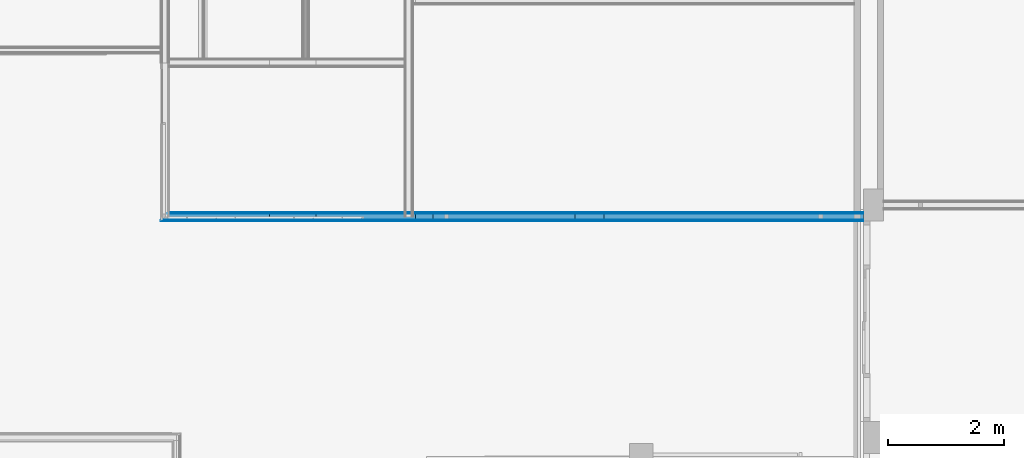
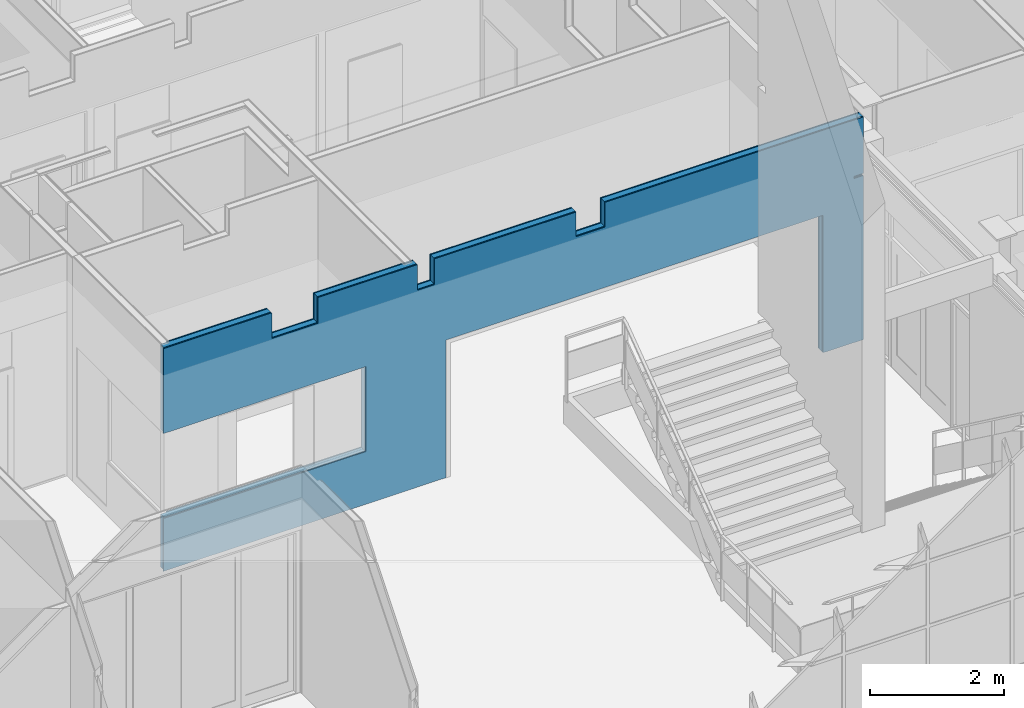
# One storey, part 33 of 109: 5 building element parts, 2 openings, 1 element without a shape of its own.
"""IFC2X3 building model written with IfcOpenShell, lengths in millimetres."""

from ifc_helpers import new_model, entity, si_unit, converted_unit, derived_unit, money_unit, direction, frame, origin_with_axes, place, context, subcontext, project, spatial, faceted_brep, material, type_object, element, aggregate, save


model = new_model("IFC2X3")

# Units and contexts
model_context = context("Model", 3, precision=0.01, world=origin_with_axes(), true_north=direction((0.0, 1.0)))
body_context = subcontext(model_context, "Body", "Model", "MODEL_VIEW")
ifc_project = project(units=[si_unit("LENGTHUNIT", "METRE", prefix="MILLI"), si_unit("AREAUNIT", "SQUARE_METRE"), si_unit("VOLUMEUNIT", "CUBIC_METRE"), converted_unit("PLANEANGLEUNIT", "DEGREE", entity("IfcPlaneAngleMeasure", 0.0174532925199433), si_unit("PLANEANGLEUNIT", "RADIAN"), dimensions=[0, 0, 0, 0, 0, 0, 0]), money_unit("EUR"), converted_unit("TIMEUNIT", "Year", entity("IfcTimeMeasure", 31557600.0), si_unit("TIMEUNIT", "SECOND"), dimensions=[0, 0, 1, 0, 0, 0, 0]), si_unit("MASSUNIT", "GRAM", prefix="KILO"), si_unit("THERMODYNAMICTEMPERATUREUNIT", "DEGREE_CELSIUS"), si_unit("LUMINOUSINTENSITYUNIT", "LUMEN"), si_unit("ENERGYUNIT", "JOULE", prefix="MEGA"), derived_unit("THERMALCONDUCTANCEUNIT", [(si_unit("POWERUNIT", "WATT"), 1), (si_unit("LENGTHUNIT", "METRE"), -1), (si_unit("THERMODYNAMICTEMPERATUREUNIT", "KELVIN"), -1)]), derived_unit("SPECIFICHEATCAPACITYUNIT", [(si_unit("ENERGYUNIT", "JOULE"), 1), (si_unit("MASSUNIT", "GRAM", prefix="KILO"), -1), (si_unit("THERMODYNAMICTEMPERATUREUNIT", "KELVIN"), -1)]), derived_unit("MASSDENSITYUNIT", [(si_unit("MASSUNIT", "GRAM", prefix="KILO"), 1), (si_unit("VOLUMEUNIT", "CUBIC_METRE"), -1)])], contexts=[model_context])

# Site, building, storey
site_placement = place(None, origin_with_axes())
site = spatial("IfcSite", under=ifc_project, at=site_placement, Name="<site naam>", CompositionType="ELEMENT")
building_placement = place(site_placement, origin_with_axes())
building = spatial("IfcBuilding", under=site, at=building_placement, Name="<Naam gebouw>", CompositionType="ELEMENT")
storey_placement = place(building_placement, origin_with_axes())
storey = spatial("IfcBuildingStorey", under=building, at=storey_placement, Name="00 Begane grond", CompositionType="ELEMENT", Elevation=0.0)

# Wall, openings, building element parts
wall_type = type_object("IfcWallType", Name="MS-01 GF 150 ECO DGS/2.100.2.A 150", PredefinedType="NOTDEFINED")
wall_placement = place(storey_placement, frame((-199.9999999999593, 11800.00000000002, 0.0), z_axis=(0.0, 0.0, 1.0), x_axis=(1.0, 0.0, 0.0)))
wall = element("IfcWall", 1, at=wall_placement, inside=storey, type_object=wall_type, Name="22_Binnenwand_MS-01")
opening_1_placement = place(wall_placement, frame((1717.194233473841, 0.0, 965.0), z_axis=(0.0, 0.0, 1.0), x_axis=(1.0, 0.0, 0.0)))
element("IfcOpeningElement", 2, at=opening_1_placement, cuts=wall, Name="22__305", context=body_context, shape_type="Brep", body=[
    faceted_brep([(1708.194233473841, -54.99999999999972, 0.0), (1708.194233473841, -54.99999999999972, 1552.0), (1708.194233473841, -75.99999999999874, 1552.0), (1708.194233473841, -75.99999999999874, 0.0), (1708.194233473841, 75.99999999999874, 0.0), (1708.194233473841, 75.99999999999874, 1552.0), (-1772.194233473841, -54.99999999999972, 1552.0), (-1792.194233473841, -74.99999999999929, 1552.0), (-1792.194233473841, -75.99999999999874, 1552.0), (-1792.194233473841, -75.99999999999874, 0.0), (-1772.194233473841, -54.99999999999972, 0.0), (-1792.194233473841, -74.99999999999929, 0.0), (-1641.194233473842, 75.99999999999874, 0.0), (-1641.194233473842, 75.99999999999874, 1552.0)], [[[0, 1, 2, 3]], [[1, 0, 4, 5]], [[1, 6, 7, 8, 2]], [[8, 9, 3, 2]], [[10, 0, 3, 9, 11]], [[0, 10, 12, 4]], [[5, 4, 12, 13]], [[6, 1, 5, 13]], [[7, 6, 13, 12, 10, 11]], [[11, 9, 8, 7]]]),
])
opening_2_placement = place(wall_placement, frame((8070.000000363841, 0.0, 0.0), z_axis=(0.0, 0.0, 1.0), x_axis=(1.0, 0.0, 0.0)))
element("IfcOpeningElement", 3, at=opening_2_placement, cuts=wall, Name="22_BI-H-01_305", context=body_context, shape_type="Brep", body=[
    faceted_brep([(3257.0, 76.00000000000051, 2517.0), (3257.0, 75.99999999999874, 0.0), (-3257.0, 75.99999999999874, 0.0), (-3257.0, 76.00000000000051, 2517.0), (3257.0, -76.00000000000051, 2517.0), (3257.0, -76.00000000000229, 0.0), (-3257.0, -76.00000000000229, 0.0), (-3257.0, -76.00000000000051, 2517.0)], [[[0, 1, 2, 3]], [[4, 5, 1, 0]], [[5, 6, 2, 1]], [[6, 7, 3, 2]], [[7, 4, 0, 3]], [[6, 5, 4, 7]]]),
])
ifc_material_1 = material(Name="gipsplaat")
building_element_part_1_placement = place(wall_placement, origin_with_axes())
building_element_part_1 = element("IfcBuildingElementPart", 4, at=building_element_part_1_placement, material=ifc_material_1, Name="gipsplaat", context=body_context, shape_type="Brep", body=[
    faceted_brep([(7062.499999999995, 75.00000000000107, 4070.0), (7062.499999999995, 74.99999999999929, 3620.0), (7562.499999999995, 74.99999999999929, 3620.0), (7562.499999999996, 75.00000000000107, 4070.0), (12026.79100128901, 75.00000000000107, 4070.0), (12026.79100128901, 75.00000000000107, 3040.0), (11864.99999999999, 75.00000000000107, 3040.0), (11864.99999999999, 75.00000000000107, 3000.0), (12026.79100128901, 75.00000000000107, 3000.0), (12026.79100128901, 75.00000000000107, 0.0), (11864.99987615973, 75.00000000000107, 0.0), (11864.99987615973, 75.00000000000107, 3.000000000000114), (4275.000231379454, 75.00000000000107, 3.000000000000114), (4275.000231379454, 74.99999999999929, 0.0), (62.49999999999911, 74.99999999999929, 0.0), (62.49999999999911, 74.99999999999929, 964.9999999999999), (75.00000162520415, 75.00000162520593, 964.9999999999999), (75.00000162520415, 75.00000162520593, 2517.0), (62.49999999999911, 75.00000000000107, 2517.0), (62.49999999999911, 75.00000000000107, 4070.0), (1799.999999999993, 75.00000000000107, 4070.0), (1799.999999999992, 75.00000000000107, 3600.0), (2599.999999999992, 75.00000000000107, 3600.0), (2599.999999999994, 75.00000000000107, 4070.0), (4314.999999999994, 75.00000000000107, 4070.0), (4314.999999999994, 75.00000000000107, 3600.0), (4614.999999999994, 75.00000000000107, 3600.0), (4614.999999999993, 75.00000000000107, 4070.0), (7062.499999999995, 62.5, 3620.0), (7062.499999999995, 62.50000000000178, 4070.0), (7562.499999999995, 62.5, 3620.0), (7562.499999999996, 62.5, 4070.0), (12026.79100128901, 62.50000000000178, 4070.0), (12026.79100128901, 62.50000000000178, 3040.0), (11864.99999999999, 62.5, 3040.0), (11864.99999999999, 62.5, 3000.0), (12026.79100128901, 62.50000000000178, 3000.0), (12026.79100128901, 62.5, 0.0), (11864.99987615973, 62.5, 0.0), (11864.99987615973, 62.5, 3.000000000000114), (4275.000231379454, 62.5, 3.000000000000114), (4275.000231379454, 62.5, 0.0), (62.49999999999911, 62.5, 0.0), (62.49999999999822, 62.5, 964.9999999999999), (62.49999999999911, 62.5, 2517.0), (62.49999999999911, 62.5, 4070.0), (1799.999999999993, 62.5, 4070.0), (1799.999999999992, 62.49999999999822, 3600.0), (2599.999999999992, 62.49999999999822, 3600.0), (2599.999999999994, 62.5, 4070.0), (4314.999999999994, 62.5, 4070.0), (4314.999999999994, 62.5, 3600.0), (4614.999999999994, 62.5, 3600.0), (4614.999999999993, 62.5, 4070.0)], [[[0, 1, 2, 3, 4, 5, 6, 7, 8, 9, 10, 11, 12, 13, 14, 15, 16, 17, 18, 19, 20, 21, 22, 23, 24, 25, 26, 27]], [[28, 1, 0, 29]], [[30, 2, 1, 28]], [[30, 31, 3, 2]], [[4, 3, 31, 32]], [[33, 5, 4, 32]], [[6, 5, 33, 34]], [[7, 6, 34, 35]], [[36, 8, 7, 35]], [[8, 36, 37, 9]], [[38, 10, 9, 37]], [[11, 10, 38, 39]], [[12, 11, 39, 40]], [[13, 12, 40, 41]], [[13, 41, 42, 14]], [[14, 42, 43, 15]], [[15, 43, 16]], [[17, 16, 43, 44]], [[17, 44, 18]], [[45, 19, 18, 44]], [[20, 19, 45, 46]], [[20, 46, 47, 21]], [[21, 47, 48, 22]], [[23, 22, 48, 49]], [[24, 23, 49, 50]], [[24, 50, 51, 25]], [[25, 51, 52, 26]], [[27, 26, 52, 53]], [[53, 29, 0, 27]], [[30, 28, 29, 53, 52, 51, 50, 49, 48, 47, 46, 45, 44, 43, 42, 41, 40, 39, 38, 37, 36, 35, 34, 33, 32, 31]]]),
])
building_element_part_2_placement = place(wall_placement, origin_with_axes())
building_element_part_2 = element("IfcBuildingElementPart", 5, at=building_element_part_2_placement, material=ifc_material_1, Name="gipsplaat", context=body_context, shape_type="Brep", body=[
    faceted_brep([(7062.499999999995, -49.99999999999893, 4070.0), (7062.499999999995, -49.99999999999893, 3620.0), (7562.499999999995, -49.99999999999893, 3620.0), (7562.499999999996, -49.99999999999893, 4070.0), (12026.79100128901, -49.99999999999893, 4070.0), (12026.79100128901, -49.99999999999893, 3040.0), (11864.99999999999, -49.99999999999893, 3040.0), (11864.99999999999, -49.99999999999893, 3000.0), (12026.79100128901, -49.99999999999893, 3000.0), (12026.79100128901, -49.99999999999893, 0.0), (11864.99987615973, -49.99999999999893, 0.0), (11864.99987615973, -49.99999999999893, 3.000000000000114), (4275.000231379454, -49.99999999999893, 3.000000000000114), (4275.000231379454, -50.00000000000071, 0.0), (-62.50000000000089, -50.00000000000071, 0.0), (-62.50000000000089, -50.00000000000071, 964.9999999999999), (-54.99999999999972, -49.99999999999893, 964.9999999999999), (-50.0000000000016, -49.99999999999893, 964.9999999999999), (-50.00000000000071, -49.99999999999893, 2517.0), (-54.99999999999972, -49.99999999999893, 2517.0), (-62.50000000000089, -49.99999999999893, 2517.0), (-62.50000000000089, -49.99999999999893, 4070.0), (1799.999999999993, -49.99999999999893, 4070.0), (1799.999999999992, -49.99999999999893, 3600.0), (2599.999999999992, -49.99999999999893, 3600.0), (2599.999999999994, -49.99999999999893, 4070.0), (4314.999999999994, -49.99999999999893, 4070.0), (4314.999999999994, -49.99999999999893, 3600.0), (4614.999999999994, -49.99999999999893, 3600.0), (4614.999999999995, -49.99999999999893, 4070.0), (7062.499999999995, -62.5, 3620.0), (7062.499999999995, -62.49999999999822, 4070.0), (7562.499999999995, -62.5, 3620.0), (7562.499999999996, -62.5, 4070.0), (12026.79100128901, -62.49999999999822, 4070.0), (12026.79100128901, -62.49999999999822, 3040.0), (11864.99999999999, -62.5, 3040.0), (11864.99999999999, -62.5, 3000.0), (12026.79100128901, -62.49999999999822, 3000.0), (12026.79100128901, -62.5, 0.0), (11864.99987615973, -62.5, 0.0), (11864.99987615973, -62.5, 3.000000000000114), (4275.000231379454, -62.5, 3.000000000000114), (4275.000231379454, -62.5, 0.0), (-62.50000000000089, -62.5, 0.0), (-62.50000000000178, -62.5, 964.9999999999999), (-54.99999999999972, -54.99999999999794, 964.9999999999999), (-62.50000000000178, -62.5, 2517.0), (-54.99999999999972, -54.99999999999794, 2517.0), (-62.50000000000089, -62.5, 4070.0), (1799.999999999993, -62.5, 4070.0), (1799.999999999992, -62.5, 3600.0), (2599.999999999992, -62.5, 3600.0), (2599.999999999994, -62.5, 4070.0), (4314.999999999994, -62.5, 4070.0), (4314.999999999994, -62.5, 3600.0), (4614.999999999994, -62.5, 3600.0), (4614.999999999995, -62.5, 4070.0)], [[[0, 1, 2, 3, 4, 5, 6, 7, 8, 9, 10, 11, 12, 13, 14, 15, 16, 17, 18, 19, 20, 21, 22, 23, 24, 25, 26, 27, 28, 29]], [[30, 1, 0, 31]], [[32, 2, 1, 30]], [[32, 33, 3, 2]], [[4, 3, 33, 34]], [[35, 5, 4, 34]], [[6, 5, 35, 36]], [[7, 6, 36, 37]], [[38, 8, 7, 37]], [[8, 38, 39, 9]], [[40, 10, 9, 39]], [[11, 10, 40, 41]], [[12, 11, 41, 42]], [[13, 12, 42, 43]], [[13, 43, 44, 14]], [[14, 44, 45, 15]], [[45, 46, 16, 15]], [[16, 46, 17]], [[47, 48, 18, 17, 46, 45]], [[18, 48, 19]], [[48, 47, 20, 19]], [[49, 21, 20, 47]], [[22, 21, 49, 50]], [[22, 50, 51, 23]], [[23, 51, 52, 24]], [[25, 24, 52, 53]], [[26, 25, 53, 54]], [[26, 54, 55, 27]], [[27, 55, 56, 28]], [[29, 28, 56, 57]], [[57, 31, 0, 29]], [[32, 30, 31, 57, 56, 55, 54, 53, 52, 51, 50, 49, 47, 45, 44, 43, 42, 41, 40, 39, 38, 37, 36, 35, 34, 33]]]),
])
ifc_material_2 = material(Name="isolatie_steenwol LSW")
building_element_part_3_placement = place(wall_placement, origin_with_axes())
building_element_part_3 = element("IfcBuildingElementPart", 6, at=building_element_part_3_placement, material=ifc_material_2, Name="isolatie_steenwol LSW", context=body_context, shape_type="Brep", body=[
    faceted_brep([(7062.499999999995, 50.00000000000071, 4070.0), (7062.499999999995, 50.00000000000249, 3620.0), (7562.499999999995, 50.00000000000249, 3620.0), (7562.499999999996, 50.00000000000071, 4070.0), (12026.79100128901, 50.00000000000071, 4070.0), (12026.79100128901, 50.00000000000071, 3040.0), (11864.99999999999, 50.00000000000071, 3040.0), (11864.99999999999, 50.00000000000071, 3000.0), (12026.79100128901, 50.00000000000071, 3000.0), (12026.79100128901, 50.00000000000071, 0.0), (11864.99987615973, 50.00000000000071, 0.0), (11864.99987615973, 50.00000000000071, 3.000000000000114), (4275.000231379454, 49.99999999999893, 3.000000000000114), (4275.000231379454, 50.00000000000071, 0.0), (-50.0000000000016, 50.00000000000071, 0.0), (-50.0000000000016, 50.00000000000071, 964.9999999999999), (49.99999999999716, 49.99999999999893, 964.9999999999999), (49.99999999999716, 49.99999999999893, 2517.0), (-50.0000000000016, 50.00000000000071, 2517.0), (-50.0000000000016, 50.00000000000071, 4070.0), (1799.999999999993, 50.00000000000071, 4070.0), (1799.999999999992, 49.99999999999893, 3600.0), (2599.999999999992, 49.99999999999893, 3600.0), (2599.999999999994, 50.00000000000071, 4070.0), (4314.999999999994, 50.00000000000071, 4070.0), (4314.999999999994, 49.99999999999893, 3600.0), (4614.999999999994, 49.99999999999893, 3600.0), (4614.999999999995, 50.00000000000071, 4070.0), (7062.499999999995, -49.99999999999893, 3620.0), (7062.499999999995, -49.99999999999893, 4070.0), (7562.499999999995, -49.99999999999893, 3620.0), (7562.499999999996, -49.99999999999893, 4070.0), (12026.79100128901, -49.99999999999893, 4070.0), (12026.79100128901, -49.99999999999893, 3040.0), (11864.99999999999, -49.99999999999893, 3040.0), (11864.99999999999, -49.99999999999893, 3000.0), (12026.79100128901, -49.99999999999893, 3000.0), (12026.79100128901, -49.99999999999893, 0.0), (11864.99987615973, -49.99999999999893, 0.0), (11864.99987615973, -49.99999999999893, 3.000000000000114), (4275.000231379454, -49.99999999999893, 3.000000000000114), (4275.000231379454, -50.00000000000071, 0.0), (-50.0000000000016, -50.00000000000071, 0.0), (-50.0000000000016, -50.00000000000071, 964.9999999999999), (-50.0000000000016, -49.99999999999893, 2517.0), (-50.0000000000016, -49.99999999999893, 4070.0), (1799.999999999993, -49.99999999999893, 4070.0), (1799.999999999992, -49.99999999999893, 3600.0), (2599.999999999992, -49.99999999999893, 3600.0), (2599.999999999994, -49.99999999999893, 4070.0), (4314.999999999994, -49.99999999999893, 4070.0), (4314.999999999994, -49.99999999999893, 3600.0), (4614.999999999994, -49.99999999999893, 3600.0), (4614.999999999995, -49.99999999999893, 4070.0)], [[[0, 1, 2, 3, 4, 5, 6, 7, 8, 9, 10, 11, 12, 13, 14, 15, 16, 17, 18, 19, 20, 21, 22, 23, 24, 25, 26, 27]], [[28, 1, 0, 29]], [[30, 2, 1, 28]], [[30, 31, 3, 2]], [[4, 3, 31, 32]], [[33, 5, 4, 32]], [[6, 5, 33, 34]], [[7, 6, 34, 35]], [[36, 8, 7, 35]], [[8, 36, 37, 9]], [[38, 10, 9, 37]], [[11, 10, 38, 39]], [[12, 11, 39, 40]], [[13, 12, 40, 41]], [[13, 41, 42, 14]], [[14, 42, 43, 15]], [[15, 43, 16]], [[43, 44, 17, 16]], [[17, 44, 18]], [[45, 19, 18, 44]], [[20, 19, 45, 46]], [[20, 46, 47, 21]], [[21, 47, 48, 22]], [[23, 22, 48, 49]], [[24, 23, 49, 50]], [[24, 50, 51, 25]], [[25, 51, 52, 26]], [[27, 26, 52, 53]], [[53, 29, 0, 27]], [[30, 28, 29, 53, 52, 51, 50, 49, 48, 47, 46, 45, 44, 43, 42, 41, 40, 39, 38, 37, 36, 35, 34, 33, 32, 31]]]),
])
building_element_part_4_placement = place(wall_placement, origin_with_axes())
building_element_part_4 = element("IfcBuildingElementPart", 7, at=building_element_part_4_placement, material=ifc_material_1, Name="gipsplaat", context=body_context, shape_type="Brep", body=[
    faceted_brep([(7062.499999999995, -62.5, 4070.0), (7062.499999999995, -62.5, 3620.0), (7562.499999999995, -62.5, 3620.0), (7562.499999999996, -62.5, 4070.0), (12026.79100128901, -62.49999999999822, 4070.0), (12026.79100128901, -62.49999999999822, 3040.0), (11864.99999999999, -62.49999999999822, 3040.0), (11864.99999999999, -62.49999999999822, 3000.0), (12026.79100128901, -62.49999999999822, 3000.0), (12026.79100128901, -62.5, 0.0), (11864.99987615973, -62.5, 0.0), (11864.99987615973, -62.49999999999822, 3.000000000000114), (4275.000231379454, -62.49999999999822, 3.000000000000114), (4275.000231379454, -62.5, 0.0), (-75.00000000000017, -62.5, 0.0), (-75.00000000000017, -62.5, 964.9999999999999), (-62.50000000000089, -62.49999999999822, 964.9999999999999), (-62.50000000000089, -62.49999999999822, 2517.0), (-75.00000000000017, -62.5, 2517.0), (-75.00000000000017, -62.5, 4070.0), (1799.999999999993, -62.5, 4070.0), (1799.999999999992, -62.49999999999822, 3600.0), (2599.999999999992, -62.49999999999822, 3600.0), (2599.999999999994, -62.5, 4070.0), (4314.999999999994, -62.5, 4070.0), (4314.999999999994, -62.49999999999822, 3600.0), (4614.999999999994, -62.49999999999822, 3600.0), (4614.999999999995, -62.5, 4070.0), (7062.499999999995, -74.99999999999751, 3620.0), (7062.499999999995, -74.99999999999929, 4070.0), (7562.499999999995, -74.99999999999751, 3620.0), (7562.499999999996, -74.99999999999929, 4070.0), (12026.79100128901, -74.99999999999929, 4070.0), (12026.79100128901, -74.99999999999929, 3040.0), (11864.99999999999, -74.99999999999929, 3040.0), (11864.99999999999, -74.99999999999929, 3000.0), (12026.79100128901, -74.99999999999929, 3000.0), (12026.79100128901, -74.99999999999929, 0.0), (11864.99987615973, -74.99994814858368, 0.0), (11864.99987615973, -74.99994814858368, 3.000000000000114), (4275.000231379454, -74.99994814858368, 3.000000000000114), (4275.000231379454, -74.99994814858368, 0.0), (-75.00000000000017, -74.99999999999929, 0.0), (-75.00000000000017, -74.99999999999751, 964.9999999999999), (-75.00000000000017, -74.99999999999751, 2517.0), (-75.00000000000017, -74.99999999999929, 4070.0), (1799.999999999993, -74.99999999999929, 4070.0), (1799.999999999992, -74.99994814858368, 3600.0), (2599.999999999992, -74.99994814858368, 3600.0), (2599.999999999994, -74.99999999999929, 4070.0), (4314.999999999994, -74.99999999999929, 4070.0), (4314.999999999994, -74.99994814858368, 3600.0), (4614.999999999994, -74.99994814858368, 3600.0), (4614.999999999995, -74.99999999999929, 4070.0)], [[[0, 1, 2, 3, 4, 5, 6, 7, 8, 9, 10, 11, 12, 13, 14, 15, 16, 17, 18, 19, 20, 21, 22, 23, 24, 25, 26, 27]], [[28, 1, 0, 29]], [[30, 2, 1, 28]], [[30, 31, 3, 2]], [[4, 3, 31, 32]], [[33, 5, 4, 32]], [[6, 5, 33, 34]], [[7, 6, 34, 35]], [[36, 8, 7, 35]], [[8, 36, 37, 9]], [[38, 10, 9, 37]], [[11, 10, 38, 39]], [[12, 11, 39, 40]], [[13, 12, 40, 41]], [[13, 41, 42, 14]], [[14, 42, 43, 15]], [[15, 43, 16]], [[43, 44, 17, 16]], [[17, 44, 18]], [[45, 19, 18, 44]], [[20, 19, 45, 46]], [[20, 46, 47, 21]], [[21, 47, 48, 22]], [[23, 22, 48, 49]], [[24, 23, 49, 50]], [[24, 50, 51, 25]], [[25, 51, 52, 26]], [[27, 26, 52, 53]], [[53, 29, 0, 27]], [[30, 28, 29, 53, 52, 51, 50, 49, 48, 47, 46, 45, 44, 43, 42, 41, 40, 39, 38, 37, 36, 35, 34, 33, 32, 31]]]),
])
building_element_part_5_placement = place(wall_placement, origin_with_axes())
building_element_part_5 = element("IfcBuildingElementPart", 8, at=building_element_part_5_placement, material=ifc_material_1, Name="gipsplaat", context=body_context, shape_type="Brep", body=[
    faceted_brep([(7062.499999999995, 62.5, 4070.0), (7062.499999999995, 62.5, 3620.0), (7562.499999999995, 62.5, 3620.0), (7562.499999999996, 62.5, 4070.0), (12026.79100128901, 62.50000000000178, 4070.0), (12026.79100128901, 62.50000000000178, 3040.0), (11864.99999999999, 62.50000000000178, 3040.0), (11864.99999999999, 62.50000000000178, 3000.0), (12026.79100128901, 62.50000000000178, 3000.0), (12026.79100128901, 62.5, 0.0), (11864.99987615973, 62.50000000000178, 0.0), (11864.99987615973, 62.50000000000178, 3.000000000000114), (4275.000231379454, 62.50000000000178, 3.000000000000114), (4275.000231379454, 62.5, 0.0), (49.99999999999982, 62.5, 0.0), (49.99999999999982, 62.5, 964.9999999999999), (62.49999999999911, 62.50000000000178, 964.9999999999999), (62.5, 62.50000000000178, 2517.0), (49.99999999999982, 62.5, 2517.0), (49.99999999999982, 62.5, 4070.0), (1799.999999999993, 62.5, 4070.0), (1799.999999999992, 62.50000000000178, 3600.0), (2599.999999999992, 62.50000000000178, 3600.0), (2599.999999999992, 62.5, 4070.0), (4314.999999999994, 62.5, 4070.0), (4314.999999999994, 62.50000000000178, 3600.0), (4614.999999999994, 62.50000000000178, 3600.0), (4614.999999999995, 62.5, 4070.0), (7062.499999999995, 50.00000000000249, 3620.0), (7062.499999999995, 50.00000000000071, 4070.0), (7562.499999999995, 50.00000000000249, 3620.0), (7562.499999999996, 50.00000000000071, 4070.0), (12026.79100128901, 50.00000000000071, 4070.0), (12026.79100128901, 50.00000000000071, 3040.0), (11864.99999999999, 50.00000000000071, 3040.0), (11864.99999999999, 50.00000000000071, 3000.0), (12026.79100128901, 50.00000000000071, 3000.0), (12026.79100128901, 50.00000000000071, 0.0), (11864.99987615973, 50.00000000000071, 0.0), (11864.99987615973, 50.00000000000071, 3.000000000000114), (4275.000231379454, 50.00000000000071, 3.000000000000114), (4275.000231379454, 50.00000000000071, 0.0), (49.99999999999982, 50.00000000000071, 0.0), (49.99999999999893, 50.00000000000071, 964.9999999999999), (49.99999999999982, 50.00000000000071, 2517.0), (49.99999999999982, 50.00000000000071, 4070.0), (1799.999999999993, 50.00000000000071, 4070.0), (1799.999999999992, 50.00000000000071, 3600.0), (2599.999999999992, 50.00000000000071, 3600.0), (2599.999999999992, 50.00000000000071, 4070.0), (4314.999999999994, 50.00000000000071, 4070.0), (4314.999999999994, 50.00000000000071, 3600.0), (4614.999999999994, 50.00000000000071, 3600.0), (4614.999999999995, 50.00000000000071, 4070.0)], [[[0, 1, 2, 3, 4, 5, 6, 7, 8, 9, 10, 11, 12, 13, 14, 15, 16, 17, 18, 19, 20, 21, 22, 23, 24, 25, 26, 27]], [[28, 1, 0, 29]], [[30, 2, 1, 28]], [[30, 31, 3, 2]], [[4, 3, 31, 32]], [[33, 5, 4, 32]], [[6, 5, 33, 34]], [[7, 6, 34, 35]], [[36, 8, 7, 35]], [[8, 36, 37, 9]], [[38, 10, 9, 37]], [[11, 10, 38, 39]], [[12, 11, 39, 40]], [[13, 12, 40, 41]], [[13, 41, 42, 14]], [[14, 42, 43, 15]], [[15, 43, 16]], [[43, 44, 17, 16]], [[17, 44, 18]], [[45, 19, 18, 44]], [[20, 19, 45, 46]], [[20, 46, 47, 21]], [[21, 47, 48, 22]], [[23, 22, 48, 49]], [[24, 23, 49, 50]], [[24, 50, 51, 25]], [[25, 51, 52, 26]], [[27, 26, 52, 53]], [[53, 29, 0, 27]], [[30, 28, 29, 53, 52, 51, 50, 49, 48, 47, 46, 45, 44, 43, 42, 41, 40, 39, 38, 37, 36, 35, 34, 33, 32, 31]]]),
])
aggregate(wall, [building_element_part_1, building_element_part_2, building_element_part_3, building_element_part_4, building_element_part_5])

save(model, "model.ifc")
